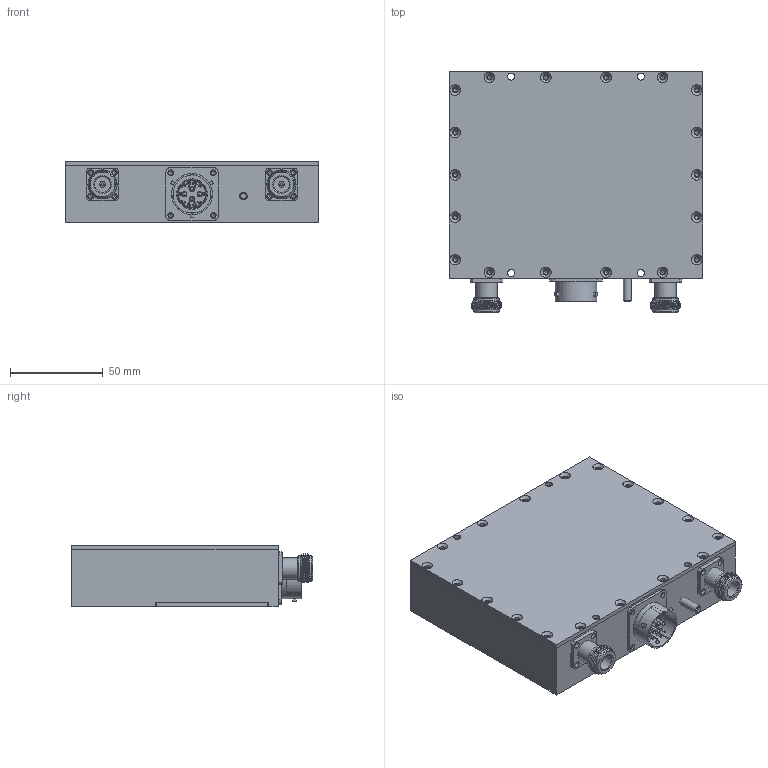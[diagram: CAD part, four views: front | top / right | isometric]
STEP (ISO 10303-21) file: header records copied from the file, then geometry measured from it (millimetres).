
FILE_DESCRIPTION((''),'2;1');
FILE_NAME('\\serpentor\Engineering\ENG\Models\TTRMxxxx\TTRM1096 RSS 2200-2400 MHz\Inventor\148.stp','2016-06-02T15:35:29',('DEAN'),(''),'Autodesk Inventor 2013','Autodesk Inventor 2013','');
FILE_SCHEMA(('AUTOMOTIVE_DESIGN { 1 0 10303 214 1 1 1 1 }'));
Length unit declared in the file: inch
Products named in the file (7): TTRM1096; T53152181; 410-005; 400-039; T50152181; T53152182; 600-024
Assembly tree (7 placements, depth 2):
  TTRM1096
    T53152181
    410-005  x2
    400-039
    T50152181
    T53152182
    600-024
Bounding box: 136.65 x 130.01 x 33.27 mm (x, y, z)
Volume: 341723.5 mm3; surface area: 127247.5 mm2
Topology: 14 solids, 14 shells, 1245 faces, 3344 edges, 2199 vertices
Faces by surface type: plane 595, cylinder 372, cone 146, bspline 118, sphere 12, torus 2
Full cylindrical faces by diameter (mm): 0.762 x8, 1.194 x27, 1.27 x2, 1.397 x4, 1.419 x4, 1.651 x8, 1.676 x2, 1.702 x16, 1.778 x4, 2.032 x3, 2.159 x34, 2.438 x12, 2.464 x4, 2.718 x8, 3.048 x4, 3.15 x2, 3.2 x8, 3.277 x18, 3.302 x1, 3.81 x8, 4.166 x1, 4.2 x2, 4.216 x2, 8.534 x2, 8.64 x2, 11.4 x2, 12.5 x2, 13.8 x4, 16.51 x1, 19.304 x1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
Entity records: 37887 total; most frequent: CARTESIAN_POINT 10075, ORIENTED_EDGE 5300, DIRECTION 5293, EDGE_CURVE 2650, VERTEX_POINT 1895, AXIS2_PLACEMENT_3D 1843, EDGE_LOOP 1685, VECTOR 1607
